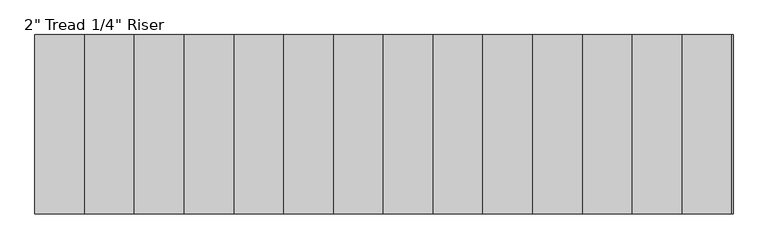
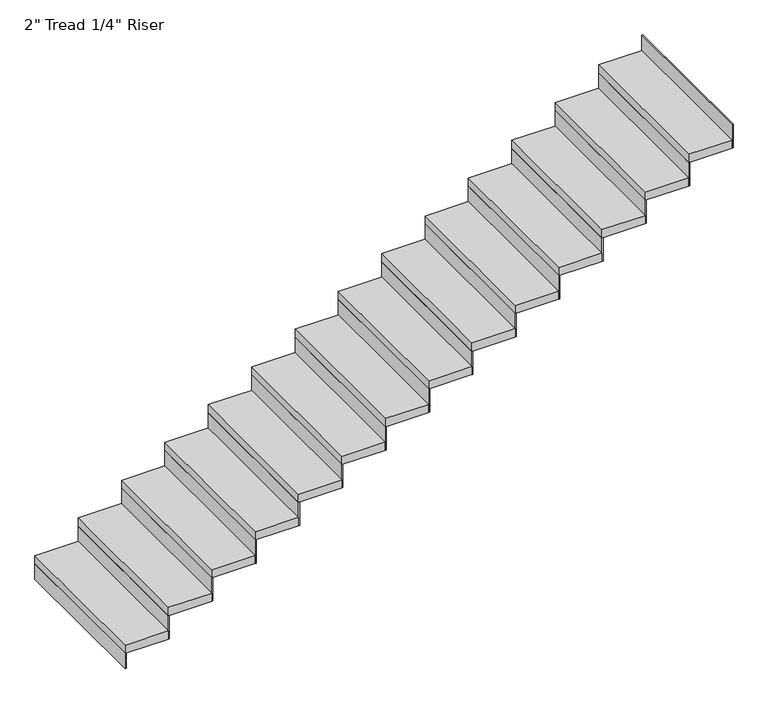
"""IFC4 building model written with IfcOpenShell, lengths in millimetres: stair flight geometry."""

from ifc_helpers import new_model, si_unit, frame, origin, origin_with_axes, place, context, project, spatial, polyline, outline, extrude, source, transform, mapped, element, save


def stair_flight_3adfad0a(model_context):
    return source(origin(), model_context, "Body", "SweptSolid", [
        extrude(outline(polyline([(108752.5286089, 15846.0395941), (108746.1786089, 15846.0395941), (108746.1786089, 16760.4395941), (108752.5286089, 16760.4395941), (108752.5286089, 15846.0395941)])), origin_with_axes(), (0.0, 0.0, 1.0), 94.3428571),
        extrude(outline(polyline([(109000.1786089, 16760.4395941), (109000.1786089, 15846.0395941), (108746.1786089, 15846.0395941), (108746.1786089, 16760.4395941), (109000.1786089, 16760.4395941)])), frame((0.0, 0.0, 94.3428571), z_axis=(0.0, 0.0, 1.0), x_axis=(1.0, 0.0, 0.0)), (0.0, 0.0, 1.0), 50.8),
        extrude(outline(polyline([(109006.5286089, 15846.0395941), (109000.1786089, 15846.0395941), (109000.1786089, 16760.4395941), (109006.5286089, 16760.4395941), (109006.5286089, 15846.0395941)])), frame((0.0, 0.0, 94.3428571), z_axis=(0.0, 0.0, 1.0), x_axis=(1.0, 0.0, 0.0)), (0.0, 0.0, 1.0), 145.1428571),
        extrude(outline(polyline([(109254.1786089, 16760.4395941), (109254.1786089, 15846.0395941), (109000.1786089, 15846.0395941), (109000.1786089, 16760.4395941), (109254.1786089, 16760.4395941)])), frame((0.0, 0.0, 239.4857143), z_axis=(0.0, 0.0, 1.0), x_axis=(1.0, 0.0, 0.0)), (0.0, 0.0, 1.0), 50.8),
        extrude(outline(polyline([(109260.5286089, 15846.0395941), (109254.1786089, 15846.0395941), (109254.1786089, 16760.4395941), (109260.5286089, 16760.4395941), (109260.5286089, 15846.0395941)])), frame((0.0, 0.0, 239.4857143), z_axis=(0.0, 0.0, 1.0), x_axis=(1.0, 0.0, 0.0)), (0.0, 0.0, 1.0), 145.1428571),
        extrude(outline(polyline([(109508.1786089, 16760.4395941), (109508.1786089, 15846.0395941), (109254.1786089, 15846.0395941), (109254.1786089, 16760.4395941), (109508.1786089, 16760.4395941)])), frame((0.0, 0.0, 384.6285714), z_axis=(0.0, 0.0, 1.0), x_axis=(1.0, 0.0, 0.0)), (0.0, 0.0, 1.0), 50.8),
        extrude(outline(polyline([(109514.5286089, 15846.0395941), (109508.1786089, 15846.0395941), (109508.1786089, 16760.4395941), (109514.5286089, 16760.4395941), (109514.5286089, 15846.0395941)])), frame((0.0, 0.0, 384.6285714), z_axis=(0.0, 0.0, 1.0), x_axis=(1.0, 0.0, 0.0)), (0.0, 0.0, 1.0), 145.1428571),
        extrude(outline(polyline([(109762.1786089, 16760.4395941), (109762.1786089, 15846.0395941), (109508.1786089, 15846.0395941), (109508.1786089, 16760.4395941), (109762.1786089, 16760.4395941)])), frame((0.0, 0.0, 529.7714286), z_axis=(0.0, 0.0, 1.0), x_axis=(1.0, 0.0, 0.0)), (0.0, 0.0, 1.0), 50.8),
        extrude(outline(polyline([(109768.5286089, 15846.0395941), (109762.1786089, 15846.0395941), (109762.1786089, 16760.4395941), (109768.5286089, 16760.4395941), (109768.5286089, 15846.0395941)])), frame((0.0, 0.0, 529.7714286), z_axis=(0.0, 0.0, 1.0), x_axis=(1.0, 0.0, 0.0)), (0.0, 0.0, 1.0), 145.1428571),
        extrude(outline(polyline([(110016.1786089, 16760.4395941), (110016.1786089, 15846.0395941), (109762.1786089, 15846.0395941), (109762.1786089, 16760.4395941), (110016.1786089, 16760.4395941)])), frame((0.0, 0.0, 674.9142857), z_axis=(0.0, 0.0, 1.0), x_axis=(1.0, 0.0, 0.0)), (0.0, 0.0, 1.0), 50.8),
        extrude(outline(polyline([(110022.5286089, 15846.0395941), (110016.1786089, 15846.0395941), (110016.1786089, 16760.4395941), (110022.5286089, 16760.4395941), (110022.5286089, 15846.0395941)])), frame((0.0, 0.0, 674.9142857), z_axis=(0.0, 0.0, 1.0), x_axis=(1.0, 0.0, 0.0)), (0.0, 0.0, 1.0), 145.1428571),
        extrude(outline(polyline([(110270.1786089, 16760.4395941), (110270.1786089, 15846.0395941), (110016.1786089, 15846.0395941), (110016.1786089, 16760.4395941), (110270.1786089, 16760.4395941)])), frame((0.0, 0.0, 820.0571429), z_axis=(0.0, 0.0, 1.0), x_axis=(1.0, 0.0, 0.0)), (0.0, 0.0, 1.0), 50.8),
        extrude(outline(polyline([(110276.5286089, 15846.0395941), (110270.1786089, 15846.0395941), (110270.1786089, 16760.4395941), (110276.5286089, 16760.4395941), (110276.5286089, 15846.0395941)])), frame((0.0, 0.0, 820.0571429), z_axis=(0.0, 0.0, 1.0), x_axis=(1.0, 0.0, 0.0)), (0.0, 0.0, 1.0), 145.1428571),
        extrude(outline(polyline([(110524.1786089, 16760.4395941), (110524.1786089, 15846.0395941), (110270.1786089, 15846.0395941), (110270.1786089, 16760.4395941), (110524.1786089, 16760.4395941)])), frame((0.0, 0.0, 965.2), z_axis=(0.0, 0.0, 1.0), x_axis=(1.0, 0.0, 0.0)), (0.0, 0.0, 1.0), 50.8),
        extrude(outline(polyline([(110530.5286089, 15846.0395941), (110524.1786089, 15846.0395941), (110524.1786089, 16760.4395941), (110530.5286089, 16760.4395941), (110530.5286089, 15846.0395941)])), frame((0.0, 0.0, 965.2), z_axis=(0.0, 0.0, 1.0), x_axis=(1.0, 0.0, 0.0)), (0.0, 0.0, 1.0), 145.1428571),
        extrude(outline(polyline([(110778.1786089, 16760.4395941), (110778.1786089, 15846.0395941), (110524.1786089, 15846.0395941), (110524.1786089, 16760.4395941), (110778.1786089, 16760.4395941)])), frame((0.0, 0.0, 1110.3428571), z_axis=(0.0, 0.0, 1.0), x_axis=(1.0, 0.0, 0.0)), (0.0, 0.0, 1.0), 50.8),
        extrude(outline(polyline([(110784.5286089, 15846.0395941), (110778.1786089, 15846.0395941), (110778.1786089, 16760.4395941), (110784.5286089, 16760.4395941), (110784.5286089, 15846.0395941)])), frame((0.0, 0.0, 1110.3428571), z_axis=(0.0, 0.0, 1.0), x_axis=(1.0, 0.0, 0.0)), (0.0, 0.0, 1.0), 145.1428571),
        extrude(outline(polyline([(111032.1786089, 16760.4395941), (111032.1786089, 15846.0395941), (110778.1786089, 15846.0395941), (110778.1786089, 16760.4395941), (111032.1786089, 16760.4395941)])), frame((0.0, 0.0, 1255.4857143), z_axis=(0.0, 0.0, 1.0), x_axis=(1.0, 0.0, 0.0)), (0.0, 0.0, 1.0), 50.8),
        extrude(outline(polyline([(111038.5286089, 15846.0395941), (111032.1786089, 15846.0395941), (111032.1786089, 16760.4395941), (111038.5286089, 16760.4395941), (111038.5286089, 15846.0395941)])), frame((0.0, 0.0, 1255.4857143), z_axis=(0.0, 0.0, 1.0), x_axis=(1.0, 0.0, 0.0)), (0.0, 0.0, 1.0), 145.1428571),
        extrude(outline(polyline([(111286.1786089, 16760.4395941), (111286.1786089, 15846.0395941), (111032.1786089, 15846.0395941), (111032.1786089, 16760.4395941), (111286.1786089, 16760.4395941)])), frame((0.0, 0.0, 1400.6285714), z_axis=(0.0, 0.0, 1.0), x_axis=(1.0, 0.0, 0.0)), (0.0, 0.0, 1.0), 50.8),
        extrude(outline(polyline([(111292.5286089, 15846.0395941), (111286.1786089, 15846.0395941), (111286.1786089, 16760.4395941), (111292.5286089, 16760.4395941), (111292.5286089, 15846.0395941)])), frame((0.0, 0.0, 1400.6285714), z_axis=(0.0, 0.0, 1.0), x_axis=(1.0, 0.0, 0.0)), (0.0, 0.0, 1.0), 145.1428571),
        extrude(outline(polyline([(111540.1786089, 16760.4395941), (111540.1786089, 15846.0395941), (111286.1786089, 15846.0395941), (111286.1786089, 16760.4395941), (111540.1786089, 16760.4395941)])), frame((0.0, 0.0, 1545.7714286), z_axis=(0.0, 0.0, 1.0), x_axis=(1.0, 0.0, 0.0)), (0.0, 0.0, 1.0), 50.8),
        extrude(outline(polyline([(111546.5286089, 15846.0395941), (111540.1786089, 15846.0395941), (111540.1786089, 16760.4395941), (111546.5286089, 16760.4395941), (111546.5286089, 15846.0395941)])), frame((0.0, 0.0, 1545.7714286), z_axis=(0.0, 0.0, 1.0), x_axis=(1.0, 0.0, 0.0)), (0.0, 0.0, 1.0), 145.1428571),
        extrude(outline(polyline([(111794.1786089, 16760.4395941), (111794.1786089, 15846.0395941), (111540.1786089, 15846.0395941), (111540.1786089, 16760.4395941), (111794.1786089, 16760.4395941)])), frame((0.0, 0.0, 1690.9142857), z_axis=(0.0, 0.0, 1.0), x_axis=(1.0, 0.0, 0.0)), (0.0, 0.0, 1.0), 50.8),
        extrude(outline(polyline([(111800.5286089, 15846.0395941), (111794.1786089, 15846.0395941), (111794.1786089, 16760.4395941), (111800.5286089, 16760.4395941), (111800.5286089, 15846.0395941)])), frame((0.0, 0.0, 1690.9142857), z_axis=(0.0, 0.0, 1.0), x_axis=(1.0, 0.0, 0.0)), (0.0, 0.0, 1.0), 145.1428571),
        extrude(outline(polyline([(112048.1786089, 16760.4395941), (112048.1786089, 15846.0395941), (111794.1786089, 15846.0395941), (111794.1786089, 16760.4395941), (112048.1786089, 16760.4395941)])), frame((0.0, 0.0, 1836.0571429), z_axis=(0.0, 0.0, 1.0), x_axis=(1.0, 0.0, 0.0)), (0.0, 0.0, 1.0), 50.8),
        extrude(outline(polyline([(112054.5286089, 15846.0395941), (112048.1786089, 15846.0395941), (112048.1786089, 16760.4395941), (112054.5286089, 16760.4395941), (112054.5286089, 15846.0395941)])), frame((0.0, 0.0, 1836.0571429), z_axis=(0.0, 0.0, 1.0), x_axis=(1.0, 0.0, 0.0)), (0.0, 0.0, 1.0), 145.1428571),
        extrude(outline(polyline([(112308.5286089, 15846.0395941), (112302.1786089, 15846.0395941), (112302.1786089, 16760.4395941), (112308.5286089, 16760.4395941), (112308.5286089, 15846.0395941)])), frame((0.0, 0.0, 1981.2), z_axis=(0.0, 0.0, 1.0), x_axis=(1.0, 0.0, 0.0)), (0.0, 0.0, 1.0), 145.1428571),
        extrude(outline(polyline([(112302.1786089, 16760.4395941), (112302.1786089, 15846.0395941), (112048.1786089, 15846.0395941), (112048.1786089, 16760.4395941), (112302.1786089, 16760.4395941)])), frame((0.0, 0.0, 1981.2), z_axis=(0.0, 0.0, 1.0), x_axis=(1.0, 0.0, 0.0)), (0.0, 0.0, 1.0), 50.8),
    ])


if __name__ == "__main__":
    model = new_model("IFC4")
    model_context = context("Model", 3, world=origin())
    ifc_project = project(units=[si_unit("LENGTHUNIT", "METRE", prefix="MILLI")], contexts=[model_context])
    site = spatial("IfcSite", under=ifc_project)
    building = spatial("IfcBuilding", under=site)
    placement = place(None, origin())
    stair_flight_shape = stair_flight_3adfad0a(model_context)
    element("IfcStairFlight", 1, ObjectType="2\" Tread 1/4\" Riser", at=placement, inside=building, context=model_context, shape_type="MappedRepresentation", body=[
        mapped(stair_flight_shape, transform((0.0, 0.0, 0.0), x_axis=(1.0, 0.0, 0.0), y_axis=(0.0, 1.0, 0.0), z_axis=(0.0, 0.0, 1.0))),
    ])
    save(model, "model.ifc")
